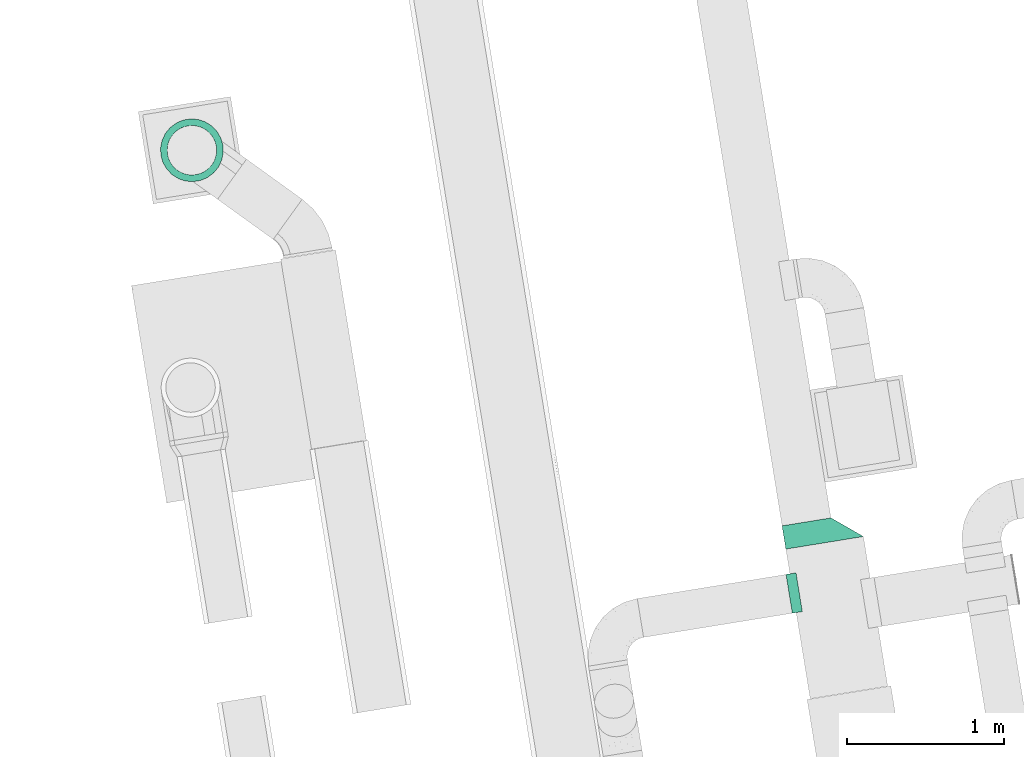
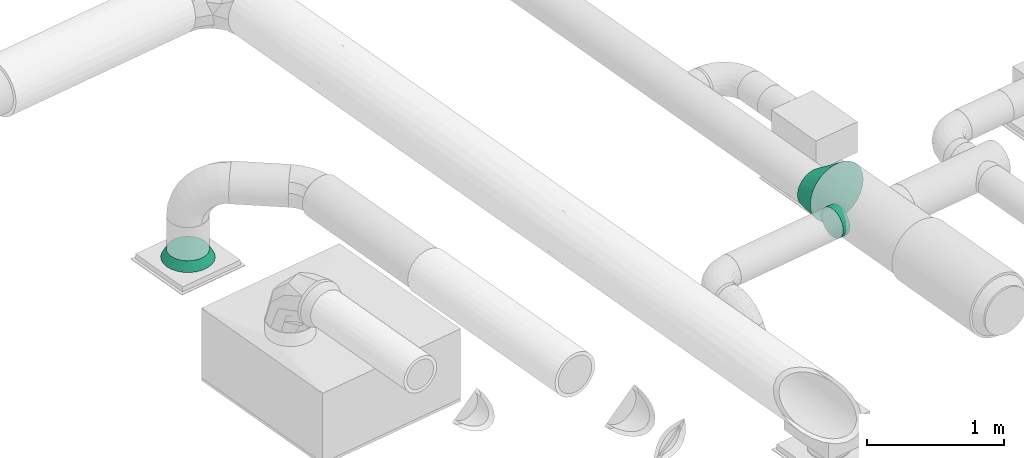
# One storey, part 36 of 39: 3 flow fittings.
"""IFC2X3 building model written with IfcOpenShell, lengths in millimetres."""

import ifcopenshell
import ifcopenshell.guid

model = None  # the IFC model being written
_history = None  # IfcOwnerHistory: only IFC2X3 demands one
_inside = {}  # id of a spatial element -> (the spatial element, [elements in it])
_under = {}  # id of a project, library or spatial element -> (it, [spatial elements below it])
_declared = {}  # id of a project -> (the project, [libraries it declares])
_typed = {}  # id of a type object -> (the type object, [elements of that type])
_made_of = {}  # id of a material, layer set ... -> (it, [elements and type objects made of it])


def new_model(schema):
    """Start an empty IFC model of exactly this schema.

    Asked for "IFC4X3", IfcOpenShell would pick the latest addendum, in which some entities
    have other attributes; the version numbers below select the first issue.
    IFC2X3 requires an IfcOwnerHistory on every rooted entity: one is made here for all.
    """
    global model, _history
    if schema == "IFC4X3":
        model = ifcopenshell.file(schema_version=(4, 3, 0, 0))
    else:
        model = ifcopenshell.file(schema=schema)
    _inside.clear()
    _under.clear()
    _declared.clear()
    _typed.clear()
    _made_of.clear()
    _history = None
    if model.schema == "IFC2X3":
        org = make("IfcOrganization", Name="unknown")
        user = make(
            "IfcPersonAndOrganization",
            ThePerson=make("IfcPerson", FamilyName="unknown"),
            TheOrganization=org,
        )
        app = make(
            "IfcApplication",
            ApplicationDeveloper=org,
            Version="unknown",
            ApplicationFullName="unknown",
            ApplicationIdentifier="unknown",
        )
        _history = make(
            "IfcOwnerHistory",
            OwningUser=user,
            OwningApplication=app,
            ChangeAction="ADDED",
            CreationDate=0,
        )
    return model


def make(cls, **values):
    """One entity of the class cls with the attributes given. An attribute that is None is left unset."""
    return model.create_entity(
        cls, **{name: value for name, value in values.items() if value is not None}
    )


def entity(cls, *values):
    """Any entity or typed value of the class cls, its attributes in the order of the schema. None: left unset."""
    e = model.create_entity(cls)
    for i, value in enumerate(values):
        if value is not None:
            e[i] = value
    return e


def rooted(cls, **values):
    """An entity with a GlobalId (a new one), such as an element, a storey or a relation."""
    return make(cls, GlobalId=ifcopenshell.guid.new(), OwnerHistory=_history, **values)


def si_unit(unit_type, name, prefix=None):
    """IfcSIUnit, for example si_unit("LENGTHUNIT", "METRE", prefix="MILLI")."""
    return make("IfcSIUnit", UnitType=unit_type, Prefix=prefix, Name=name)


def converted_unit(unit_type, name, factor, base, dimensions=None, offset=None):
    """IfcConversionBasedUnit, such as the inch: factor (a typed value) times the base unit."""
    return make(
        "IfcConversionBasedUnit"
        if offset is None
        else "IfcConversionBasedUnitWithOffset",
        ConversionOffset=offset,
        Dimensions=None
        if dimensions is None
        else entity("IfcDimensionalExponents", *dimensions),
        UnitType=unit_type,
        Name=name,
        ConversionFactor=make(
            "IfcMeasureWithUnit", ValueComponent=factor, UnitComponent=base
        ),
    )


def derived_unit(unit_type, elements):
    """IfcDerivedUnit: a product of units, each with its exponent."""
    return make(
        "IfcDerivedUnit",
        Elements=[
            make("IfcDerivedUnitElement", Unit=unit, Exponent=power)
            for unit, power in elements
        ],
        UnitType=unit_type,
    )


def assignment(units):
    """IfcUnitAssignment: the units of a project."""
    return None if units is None else make("IfcUnitAssignment", Units=units)


def point(xyz):
    """IfcCartesianPoint."""
    return None if xyz is None else make("IfcCartesianPoint", Coordinates=xyz)


def direction(xyz):
    """IfcDirection."""
    return None if xyz is None else make("IfcDirection", DirectionRatios=xyz)


def frame(location, z_axis=None, x_axis=None):
    """IfcAxis2Placement3D, a coordinate frame: its origin and axes. An axis left out is left unset."""
    return make(
        "IfcAxis2Placement3D",
        Location=point(location),
        Axis=direction(z_axis),
        RefDirection=direction(x_axis),
    )


def origin():
    """The frame at (0, 0, 0) with its axes left unset."""
    return frame((0.0, 0.0, 0.0))


def origin_with_axes():
    """The frame at (0, 0, 0) with the z axis (0, 0, 1) and the x axis (1, 0, 0) written out."""
    return frame((0.0, 0.0, 0.0), z_axis=(0.0, 0.0, 1.0), x_axis=(1.0, 0.0, 0.0))


def place(relative_to, where):
    """IfcLocalPlacement: puts the frame where relative to a parent placement (None: the world)."""
    return make(
        "IfcLocalPlacement", PlacementRelTo=relative_to, RelativePlacement=where
    )


def context(
    kind, dimensions, precision=None, world=None, true_north=None, identifier=None
):
    """IfcGeometricRepresentationContext, for example the 3D "Model" context."""
    return make(
        "IfcGeometricRepresentationContext",
        ContextIdentifier=identifier,
        ContextType=kind,
        CoordinateSpaceDimension=dimensions,
        Precision=precision,
        WorldCoordinateSystem=world,
        TrueNorth=true_north,
    )


def subcontext(parent, identifier, kind, view, scale=None):
    """IfcGeometricRepresentationSubContext, for example "Body" below "Model"."""
    return make(
        "IfcGeometricRepresentationSubContext",
        ContextIdentifier=identifier,
        ContextType=kind,
        ParentContext=parent,
        TargetScale=scale,
        TargetView=view,
    )


def project(units=None, contexts=None):
    """IfcProject with its units and contexts."""
    return rooted(
        "IfcProject",
        Name="project",
        RepresentationContexts=contexts,
        UnitsInContext=assignment(units),
    )


def spatial(cls, under=None, at=None, **own):
    """A site, building, storey or space (cls), placed at a placement, below another one or the project."""
    s = rooted(cls, ObjectPlacement=at, **own)
    if under is not None:
        _under.setdefault(under.id(), (under, []))[1].append(s)
    return s


def faces_of(points, faces, orient=None, outer=None):
    """IfcFace entities. A face is a list of loops; a loop is a list of indices into points, from 0.

    orient and outer hold one flag for each loop. By default every Orientation is true, the
    first loop of a face is its IfcFaceOuterBound and the others are IfcFaceBound.
    """
    made = []
    for i, loops in enumerate(faces):
        bounds = []
        for j, loop in enumerate(loops):
            is_outer = j == 0 if outer is None else outer[i][j]
            bounds.append(
                make(
                    "IfcFaceOuterBound" if is_outer else "IfcFaceBound",
                    Bound=make("IfcPolyLoop", Polygon=[points[k] for k in loop]),
                    Orientation=True if orient is None else orient[i][j],
                )
            )
        made.append(make("IfcFace", Bounds=bounds))
    return made


def faceted_brep(points, faces, orient=None, outer=None, voids=None):
    """IfcFacetedBrep: a solid bounded by flat faces; with voids (closed shells), ...WithVoids."""
    shared = [point(p) for p in points]
    hull = make("IfcClosedShell", CfsFaces=faces_of(shared, faces, orient, outer))
    if voids is None:
        return make("IfcFacetedBrep", Outer=hull)
    return make(
        "IfcFacetedBrepWithVoids",
        Outer=hull,
        Voids=[
            make(cls, CfsFaces=faces_of(shared, fs, o, b)) for cls, fs, o, b in voids
        ],
    )


def shape(context_of_items, identifier, shape_type, items):
    """IfcShapeRepresentation: the items that make up one representation, for example the "Body"."""
    return make(
        "IfcShapeRepresentation",
        ContextOfItems=context_of_items,
        RepresentationIdentifier=identifier,
        RepresentationType=shape_type,
        Items=items,
    )


def source(mapping_origin, context_of_items, identifier, shape_type, items):
    """IfcRepresentationMap: a shape defined once, which mapped items show again and again."""
    return make(
        "IfcRepresentationMap",
        MappingOrigin=mapping_origin,
        MappedRepresentation=shape(context_of_items, identifier, shape_type, items),
    )


def transform(
    local_origin,
    x_axis=None,
    y_axis=None,
    z_axis=None,
    scale=None,
    scale2=None,
    scale3=None,
    uniform=True,
):
    """IfcCartesianTransformationOperator3D, or its non-uniform kind. x_axis, y_axis, z_axis: its Axis1, 2, 3."""
    if uniform:
        return make(
            "IfcCartesianTransformationOperator3D",
            Axis1=direction(x_axis),
            Axis2=direction(y_axis),
            LocalOrigin=point(local_origin),
            Scale=scale,
            Axis3=direction(z_axis),
        )
    return make(
        "IfcCartesianTransformationOperator3DnonUniform",
        Axis1=direction(x_axis),
        Axis2=direction(y_axis),
        LocalOrigin=point(local_origin),
        Scale=scale,
        Axis3=direction(z_axis),
        Scale2=scale2,
        Scale3=scale3,
    )


def mapped(mapping_source, mapping_target):
    """IfcMappedItem: shows the shape of a source again, moved by a transform."""
    return make(
        "IfcMappedItem", MappingSource=mapping_source, MappingTarget=mapping_target
    )


def material(Name=None, Category=None):
    """IfcMaterial."""
    return make("IfcMaterial", Name=Name, Category=Category)


def made_of(thing, what):
    """Note that an element or type object is made of a material, layer set ...; save() writes the relation."""
    if what is not None:
        _made_of.setdefault(what.id(), (what, []))[1].append(thing)
    return thing


def type_object(cls, material=None, **own):
    """A type object (cls), such as IfcWallType, which elements share."""
    return made_of(rooted(cls, **own), material)


def element(
    cls,
    number,
    at=None,
    inside=None,
    cuts=None,
    type_object=None,
    material=None,
    context=None,
    identifier="Body",
    shape_type=None,
    held_by="IfcProductDefinitionShape",
    body=None,
    shapes=None,
    **own,
):
    """One element of the class cls, such as IfcWall. Its Tag is "e" and its number.

    at: its placement. inside: the storey or other place that contains it. cuts: it is an
    opening in that element (IfcRelVoidsElement). A single representation is given by context,
    identifier, shape_type and body (its items); several are given by shapes. held_by: the class
    of the entity that holds the representations. save() writes the other relations.
    """
    e = rooted(cls, Tag="e%d" % number, ObjectPlacement=at, **own)
    if body is not None:
        shapes = [shape(context, identifier, shape_type, body)]
    if shapes is not None:
        e.Representation = make(held_by, Representations=shapes)
    if inside is not None:
        _inside.setdefault(inside.id(), (inside, []))[1].append(e)
    if cuts is not None:
        rooted(
            "IfcRelVoidsElement", RelatingBuildingElement=cuts, RelatedOpeningElement=e
        )
    if type_object is not None:
        _typed.setdefault(type_object.id(), (type_object, []))[1].append(e)
    return made_of(e, material)


def aggregate(whole, parts):
    """IfcRelAggregates: a whole, such as a stair, and the parts it consists of."""
    return rooted("IfcRelAggregates", RelatingObject=whole, RelatedObjects=parts)


def save(model, path):
    """Write the relations noted so far, then the file.

    IfcRelAggregates (storeys below a building ...), IfcRelContainedInSpatialStructure (elements
    in a storey), IfcRelDefinesByType, IfcRelAssociatesMaterial and IfcRelDeclares: one each for
    every whole, place, type object, material and project.
    """
    for whole, parts in _under.values():
        aggregate(whole, parts)
    for where, things in _inside.values():
        rooted(
            "IfcRelContainedInSpatialStructure",
            RelatedElements=things,
            RelatingStructure=where,
        )
    for kind, things in _typed.values():
        rooted("IfcRelDefinesByType", RelatedObjects=things, RelatingType=kind)
    for what, things in _made_of.values():
        rooted("IfcRelAssociatesMaterial", RelatedObjects=things, RelatingMaterial=what)
    for by, libraries in _declared.values():
        rooted("IfcRelDeclares", RelatingContext=by, RelatedDefinitions=libraries)
    model.write(path)


model = new_model("IFC2X3")

# Units and contexts
plan_context = context("Plan", 3, precision=1e-05, world=origin_with_axes())
model_context = context("Model", 3, precision=0.01, world=origin(), true_north=direction((6.12323399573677e-17, 1.0)))
body_context = subcontext(model_context, "Body", "Model", "MODEL_VIEW")
ifc_project = project(units=[converted_unit("PLANEANGLEUNIT", "DEGREE", entity("IfcPositiveLengthMeasure", 0.0174532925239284), si_unit("PLANEANGLEUNIT", "RADIAN"), dimensions=[0, 0, 0, 0, 0, 0, 0]), si_unit("AREAUNIT", "SQUARE_METRE"), si_unit("LENGTHUNIT", "METRE", prefix="MILLI"), si_unit("MASSUNIT", "GRAM", prefix="KILO"), si_unit("POWERUNIT", "WATT"), si_unit("PRESSUREUNIT", "PASCAL", prefix="KILO"), si_unit("FORCEUNIT", "NEWTON", prefix="KILO"), si_unit("ELECTRICVOLTAGEUNIT", "VOLT"), si_unit("ELECTRICCURRENTUNIT", "AMPERE"), si_unit("THERMODYNAMICTEMPERATUREUNIT", "DEGREE_CELSIUS"), si_unit("TIMEUNIT", "SECOND"), si_unit("VOLUMEUNIT", "CUBIC_METRE"), derived_unit("LINEARVELOCITYUNIT", [(si_unit("LENGTHUNIT", "METRE"), 1), (si_unit("TIMEUNIT", "SECOND"), -1)]), derived_unit("VOLUMETRICFLOWRATEUNIT", [(si_unit("VOLUMEUNIT", "CUBIC_METRE"), 1), (si_unit("TIMEUNIT", "SECOND"), -1)]), derived_unit("THERMALTRANSMITTANCEUNIT", [(si_unit("POWERUNIT", "WATT"), 1), (si_unit("THERMODYNAMICTEMPERATUREUNIT", "KELVIN"), -1), (si_unit("AREAUNIT", "SQUARE_METRE"), -1)]), derived_unit("SOUNDPRESSUREUNIT", [(si_unit("PRESSUREUNIT", "PASCAL"), 1)])], contexts=[model_context, plan_context])

# Site, building, storey
site_placement = place(None, frame((-0.00071070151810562, 0.00438415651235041, 0.0), z_axis=(0.0, 0.0, 1.0), x_axis=(-0.160236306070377, 0.987078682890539, 0.0)))
site = spatial("IfcSite", under=ifc_project, at=site_placement, Name="Default", CompositionType="ELEMENT")
building_placement = place(site_placement, origin_with_axes())
building = spatial("IfcBuilding", under=site, at=building_placement, CompositionType="ELEMENT")
storey_placement = place(building_placement, frame((0.0, 0.0, 58999.9999999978), z_axis=(0.0, 0.0, 1.0), x_axis=(1.0, 0.0, 0.0)))
storey = spatial("IfcBuildingStorey", under=building, at=storey_placement, Name="Nivå F", CompositionType="ELEMENT", Elevation=58999.9999999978)

# Flow fittings
ifc_material_1 = material(Name="Material_Duct")
duct_fitting_type_1 = type_object("IfcDuctFittingType", Name="magicirc_reduction_001:magicirc_reduction_001", PredefinedType="NOTDEFINED", material=ifc_material_1)
shared_shape_1 = source(origin(), body_context, "Body", "Brep", [
    faceted_brep([(75.0, -157.499999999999, 0.0), (75.0, -152.133317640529, -40.7639996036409), (75.0, -136.399001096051, -78.7499999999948), (75.0, -111.369318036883, -111.369318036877), (75.0, -78.7500000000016, -136.399001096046), (75.0, -40.7639996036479, -152.133317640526), (75.0, 0.0, -157.499999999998), (75.0, 40.7639996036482, -152.133317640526), (75.0, 78.7500000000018, -136.399001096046), (75.0, 111.369318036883, -111.369318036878), (75.0, 136.39900109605, -78.7499999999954), (75.0, 152.133317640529, -40.763999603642), (75.0, 157.500000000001, 0.0), (75.0, 152.133317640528, 40.7639996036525), (75.0, 136.399001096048, 78.7500000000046), (75.0, 111.36931803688, 111.369318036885), (75.0, 78.749999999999, 136.399001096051), (75.0, 40.763999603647, 152.13331764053), (75.0, 0.0, 157.500000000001), (75.0, -40.7639996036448, 152.13331764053), (75.0, -78.7499999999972, 136.399001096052), (75.0, -111.369318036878, 111.369318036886), (75.0, -136.399001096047, 78.7500000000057), (75.0, -152.133317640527, 40.7639996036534), (0.0, 200.0, 0.0), (0.0, 194.18836348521, -47.8631328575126), (0.0, 177.091205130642, -92.9446344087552), (0.0, 149.702149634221, -132.624531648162), (0.0, 113.612949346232, -164.596773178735), (0.0, 70.9209774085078, -187.003248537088), (0.0, 24.1073360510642, -198.541774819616), (0.0, -24.1073360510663, -198.541774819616), (0.0, -70.92097740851, -187.003248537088), (0.0, -113.612949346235, -164.596773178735), (0.0, -149.702149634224, -132.624531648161), (0.0, -177.091205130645, -92.9446344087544), (0.0, -194.188363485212, -47.8631328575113), (0.0, -200.0, 0.0), (0.0, -194.188363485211, 47.8631328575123), (0.0, -177.091205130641, 92.9446344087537), (0.0, -149.702149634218, 132.624531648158), (0.0, -113.612949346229, 164.596773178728), (0.0, -70.920977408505, 187.003248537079), (0.0, -24.1073360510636, 198.541774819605), (0.0, 24.1073360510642, 198.541774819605), (0.0, 70.9209774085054, 187.003248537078), (0.0, 113.612949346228, 164.596773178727), (0.0, 149.702149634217, 132.624531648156), (0.0, 177.091205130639, 92.9446344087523), (0.0, 194.188363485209, 47.8631328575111)], [[[0, 1, 2, 3, 4, 5, 6, 7, 8, 9, 10, 11, 12, 13, 14, 15, 16, 17, 18, 19, 20, 21, 22, 23]], [[24, 25, 26, 27, 28, 29, 30, 31, 32, 33, 34, 35, 36, 37, 38, 39, 40, 41, 42, 43, 44, 45, 46, 47, 48, 49]], [[11, 10, 26]], [[12, 11, 25]], [[8, 7, 29]], [[9, 8, 28]], [[10, 9, 27]], [[11, 26, 25]], [[25, 24, 12]], [[27, 26, 10]], [[27, 9, 28]], [[28, 8, 29]], [[30, 29, 7]], [[7, 6, 30]], [[31, 6, 5]], [[32, 5, 4]], [[3, 2, 34]], [[1, 0, 36]], [[2, 1, 35]], [[4, 3, 33]], [[31, 5, 32]], [[32, 4, 33]], [[33, 3, 34]], [[35, 34, 2]], [[36, 35, 1]], [[37, 36, 0]], [[6, 31, 30]], [[23, 22, 39]], [[0, 23, 38]], [[20, 19, 42]], [[21, 20, 41]], [[22, 21, 40]], [[23, 39, 38]], [[38, 37, 0]], [[40, 39, 22]], [[40, 21, 41]], [[41, 20, 42]], [[43, 42, 19]], [[19, 18, 43]], [[44, 18, 17]], [[45, 17, 16]], [[15, 14, 47]], [[13, 12, 49]], [[14, 13, 48]], [[16, 15, 46]], [[44, 17, 45]], [[45, 16, 46]], [[46, 15, 47]], [[48, 47, 14]], [[49, 48, 13]], [[24, 49, 12]], [[18, 44, 43]]]),
])
flow_fitting_1_placement = place(storey_placement, frame((781534.119644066, -501554.980498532, 2444.03048000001), z_axis=(1.0, 0.0, 0.0), x_axis=(0.0, 0.0, 1.0)))
element("IfcFlowFitting", 1, at=flow_fitting_1_placement, inside=storey, type_object=duct_fitting_type_1, material=ifc_material_1, Name="magicirc_reduction_001:magicirc_reduction_001", ObjectType="magicirc_reduction_001:magicirc_reduction_001", context=body_context, shape_type="MappedRepresentation", body=[
    mapped(shared_shape_1, transform((0.0, 0.0, 0.0), scale=1.0)),
])
ifc_material_2 = material(Name="<Unnamed>")
duct_fitting_type_2 = type_object("IfcDuctFittingType", Name="magicirc_tapoutlet_1:magicirc_tapoutlet_001", PredefinedType="NOTDEFINED", material=ifc_material_2)
shared_shape_2 = source(origin(), body_context, "Body", "Brep", [
    faceted_brep([(-39.5896490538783, 0.0, -125.0), (-39.5896490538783, -32.3523806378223, -120.740728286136), (-39.5896490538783, -62.500000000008, -108.253175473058), (-39.5896490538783, -88.3883476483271, -88.3883476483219), (-39.5896490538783, -108.253175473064, -62.5000000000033), (-39.5896490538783, -120.740728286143, -32.352380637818), (-39.5896490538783, -125.0, 0.0), (-39.5896490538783, -120.740728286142, 32.3523806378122), (-39.5896490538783, -108.253175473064, 62.4999999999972), (-39.5896490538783, -88.3883476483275, 88.3883476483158), (-39.5896490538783, -62.5000000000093, 108.253175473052), (-39.5896490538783, -32.3523806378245, 120.740728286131), (-39.5896490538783, 0.0, 125.0), (-39.5896490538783, 32.3523806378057, 120.740728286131), (-39.5896490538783, 62.4999999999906, 108.253175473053), (-39.5896490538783, 88.3883476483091, 88.3883476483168), (-39.5896490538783, 108.253175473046, 62.4999999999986), (-39.5896490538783, 120.740728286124, 32.3523806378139), (-39.5896490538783, 125.0, 0.0), (-39.5896490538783, 120.740728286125, -32.3523806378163), (-39.5896490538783, 108.253175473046, -62.5000000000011), (-39.5896490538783, 88.3883476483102, -88.3883476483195), (-39.5896490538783, 62.4999999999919, -108.253175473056), (-39.5896490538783, 32.3523806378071, -120.740728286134), (0.0, 0.0, 125.0), (25.0, 0.0, 125.0), (25.0, 32.3523806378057, 120.740728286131), (0.0, 32.3523806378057, 120.740728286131), (25.0, 62.4999999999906, 108.253175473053), (0.0, 62.4999999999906, 108.253175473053), (25.0, 88.3883476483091, 88.3883476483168), (0.0, 88.3883476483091, 88.3883476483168), (0.0, 108.253175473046, 62.4999999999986), (25.0, 108.253175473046, 62.4999999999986), (25.0, 120.740728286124, 32.3523806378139), (0.0, 120.740728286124, 32.3523806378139), (25.0, 125.0, 0.0), (0.0, 125.0, 0.0), (25.0, 120.740728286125, -32.3523806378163), (0.0, 120.740728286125, -32.3523806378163), (25.0, 108.253175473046, -62.5000000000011), (0.0, 108.253175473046, -62.5000000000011), (25.0, 88.3883476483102, -88.3883476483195), (0.0, 88.3883476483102, -88.3883476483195), (0.0, 32.3523806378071, -120.740728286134), (25.0, 32.3523806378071, -120.740728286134), (25.0, 0.0, -125.0), (0.0, 0.0, -125.0), (0.0, 62.4999999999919, -108.253175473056), (25.0, 62.4999999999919, -108.253175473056), (25.0, -32.3523806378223, -120.740728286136), (0.0, -32.3523806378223, -120.740728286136), (25.0, -62.500000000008, -108.253175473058), (0.0, -62.500000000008, -108.253175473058), (25.0, -88.3883476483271, -88.3883476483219), (0.0, -88.3883476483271, -88.3883476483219), (0.0, -108.253175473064, -62.5000000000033), (25.0, -108.253175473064, -62.5000000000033), (25.0, -120.740728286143, -32.352380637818), (0.0, -120.740728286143, -32.352380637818), (25.0, -125.0, 0.0), (0.0, -125.0, 0.0), (25.0, -120.740728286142, 32.3523806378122), (0.0, -120.740728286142, 32.3523806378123), (25.0, -108.253175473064, 62.4999999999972), (0.0, -108.253175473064, 62.4999999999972), (25.0, -88.3883476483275, 88.3883476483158), (0.0, -88.3883476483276, 88.3883476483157), (0.0, -62.5000000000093, 108.253175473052), (25.0, -62.5000000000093, 108.253175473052), (25.0, -32.3523806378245, 120.740728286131), (0.0, -32.3523806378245, 120.740728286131)], [[[0, 1, 2, 3, 4, 5, 6, 7, 8, 9, 10, 11, 12, 13, 14, 15, 16, 17, 18, 19, 20, 21, 22, 23]], [[12, 24, 25, 26, 27, 13]], [[13, 27, 26, 28, 29, 14]], [[14, 29, 28, 30, 31, 15]], [[16, 32, 33, 34, 35, 17]], [[17, 35, 34, 36, 37, 18]], [[15, 31, 30, 33, 32, 16]], [[18, 37, 36, 38, 39, 19]], [[19, 39, 38, 40, 41, 20]], [[20, 41, 40, 42, 43, 21]], [[44, 45, 46, 47, 0, 23]], [[48, 49, 45, 44, 23, 22]], [[21, 43, 42, 49, 48, 22]], [[0, 47, 46, 50, 51, 1]], [[1, 51, 50, 52, 53, 2]], [[2, 53, 52, 54, 55, 3]], [[4, 56, 57, 58, 59, 5]], [[5, 59, 58, 60, 61, 6]], [[3, 55, 54, 57, 56, 4]], [[6, 61, 60, 62, 63, 7]], [[7, 63, 62, 64, 65, 8]], [[8, 65, 64, 66, 67, 9]], [[10, 68, 69, 70, 71, 11]], [[11, 71, 70, 25, 24, 12]], [[9, 67, 66, 69, 68, 10]], [[45, 49, 42, 40, 38, 36, 34, 33, 30, 28, 26, 25, 70, 69, 66, 64, 62, 60, 58, 57, 54, 52, 50, 46]]]),
    faceted_brep([(25.0, 32.352380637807, -120.740728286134), (25.0, 62.4999999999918, -108.253175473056), (25.0, 88.3883476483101, -88.3883476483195), (25.0, 108.253175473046, -62.5000000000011), (25.0, 120.740728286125, -32.3523806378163), (25.0, 125.0, 0.0), (25.0, 120.740728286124, 32.3523806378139), (25.0, 108.253175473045, 62.4999999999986), (25.0, 88.388347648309, 88.3883476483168), (25.0, 62.4999999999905, 108.253175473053), (25.0, 32.3523806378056, 120.740728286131), (25.0, 0.0, 125.0), (25.0, -32.3523806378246, 120.740728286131), (25.0, -62.5000000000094, 108.253175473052), (25.0, -88.3883476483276, 88.3883476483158), (25.0, -108.253175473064, 62.4999999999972), (25.0, -120.740728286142, 32.3523806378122), (25.0, -125.0, 0.0), (25.0, -120.740728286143, -32.352380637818), (25.0, -108.253175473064, -62.5000000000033), (25.0, -88.3883476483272, -88.3883476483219), (25.0, -62.500000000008, -108.253175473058), (25.0, -32.3523806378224, -120.740728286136), (25.0, 0.0, -125.0), (0.0, 0.0, 125.0), (0.0, 32.3523806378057, 120.740728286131), (-39.5896490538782, 32.3523806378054, 120.740728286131), (-39.5896490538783, 0.0, 125.0), (0.0, 62.4999999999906, 108.253175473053), (-39.5896490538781, 62.4999999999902, 108.253175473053), (0.0, 88.3883476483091, 88.3883476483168), (-39.589649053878, 88.3883476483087, 88.3883476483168), (0.0, 108.253175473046, 62.4999999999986), (0.0, 120.740728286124, 32.3523806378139), (-39.5896490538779, 120.740728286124, 32.3523806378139), (-39.5896490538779, 108.253175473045, 62.4999999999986), (0.0, 125.0, 0.0), (-39.5896490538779, 125.0, 0.0), (0.0, 120.740728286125, -32.3523806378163), (-39.5896490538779, 120.740728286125, -32.3523806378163), (0.0, 108.253175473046, -62.5000000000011), (-39.5896490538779, 108.253175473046, -62.5000000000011), (0.0, 88.3883476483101, -88.3883476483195), (-39.589649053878, 88.3883476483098, -88.3883476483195), (0.0, 0.0, -125.0), (-39.5896490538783, 0.0, -125.0), (-39.5896490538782, 32.3523806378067, -120.740728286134), (0.0, 32.3523806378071, -120.740728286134), (-39.5896490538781, 62.4999999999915, -108.253175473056), (0.0, 62.4999999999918, -108.253175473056), (0.0, -32.3523806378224, -120.740728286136), (-39.5896490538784, -32.3523806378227, -120.740728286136), (0.0, -62.500000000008, -108.253175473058), (-39.5896490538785, -62.5000000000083, -108.253175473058), (0.0, -88.3883476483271, -88.3883476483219), (-39.5896490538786, -88.3883476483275, -88.3883476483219), (0.0, -108.253175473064, -62.5000000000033), (0.0, -120.740728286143, -32.352380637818), (-39.5896490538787, -120.740728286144, -32.352380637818), (-39.5896490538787, -108.253175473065, -62.5000000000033), (0.0, -125.0, 0.0), (-39.5896490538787, -125.0, 0.0), (0.0, -120.740728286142, 32.3523806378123), (-39.5896490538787, -120.740728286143, 32.3523806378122), (0.0, -108.253175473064, 62.4999999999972), (-39.5896490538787, -108.253175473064, 62.4999999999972), (0.0, -88.3883476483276, 88.3883476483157), (-39.5896490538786, -88.3883476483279, 88.3883476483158), (0.0, -62.5000000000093, 108.253175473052), (0.0, -32.3523806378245, 120.740728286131), (-39.5896490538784, -32.3523806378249, 120.740728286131), (-39.5896490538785, -62.5000000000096, 108.253175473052)], [[[0, 1, 2, 3, 4, 5, 6, 7, 8, 9, 10, 11, 12, 13, 14, 15, 16, 17, 18, 19, 20, 21, 22, 23]], [[24, 11, 10, 25, 26, 27]], [[25, 10, 9, 28, 29, 26]], [[28, 9, 8, 30, 31, 29]], [[32, 7, 6, 33, 34, 35]], [[33, 6, 5, 36, 37, 34]], [[30, 8, 7, 32, 35, 31]], [[36, 5, 4, 38, 39, 37]], [[38, 4, 3, 40, 41, 39]], [[40, 3, 2, 42, 43, 41]], [[0, 23, 44, 45, 46, 47]], [[1, 0, 47, 46, 48, 49]], [[42, 2, 1, 49, 48, 43]], [[44, 23, 22, 50, 51, 45]], [[50, 22, 21, 52, 53, 51]], [[52, 21, 20, 54, 55, 53]], [[56, 19, 18, 57, 58, 59]], [[57, 18, 17, 60, 61, 58]], [[54, 20, 19, 56, 59, 55]], [[60, 17, 16, 62, 63, 61]], [[62, 16, 15, 64, 65, 63]], [[64, 15, 14, 66, 67, 65]], [[68, 13, 12, 69, 70, 71]], [[69, 12, 11, 24, 27, 70]], [[66, 14, 13, 68, 71, 67]], [[45, 51, 53, 55, 59, 58, 61, 63, 65, 67, 71, 70, 27, 26, 29, 31, 35, 34, 37, 39, 41, 43, 48, 46]]]),
    faceted_brep([(-39.5896490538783, 0.0, -125.0), (-39.5896490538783, -32.3523806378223, -120.740728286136), (-39.5896490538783, -62.500000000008, -108.253175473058), (-39.5896490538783, -88.3883476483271, -88.3883476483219), (-39.5896490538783, -108.253175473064, -62.5000000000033), (-39.5896490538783, -120.740728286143, -32.352380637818), (-39.5896490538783, -125.0, 0.0), (-39.5896490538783, -120.740728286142, 32.3523806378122), (-39.5896490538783, -108.253175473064, 62.4999999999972), (-39.5896490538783, -88.3883476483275, 88.3883476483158), (-39.5896490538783, -62.5000000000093, 108.253175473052), (-39.5896490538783, -32.3523806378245, 120.740728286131), (-39.5896490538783, 0.0, 125.0), (-39.5896490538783, 32.3523806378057, 120.740728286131), (-39.5896490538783, 62.4999999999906, 108.253175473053), (-39.5896490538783, 88.3883476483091, 88.3883476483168), (-39.5896490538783, 108.253175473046, 62.4999999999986), (-39.5896490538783, 120.740728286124, 32.3523806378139), (-39.5896490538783, 125.0, 0.0), (-39.5896490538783, 120.740728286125, -32.3523806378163), (-39.5896490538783, 108.253175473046, -62.5000000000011), (-39.5896490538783, 88.3883476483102, -88.3883476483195), (-39.5896490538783, 62.4999999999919, -108.253175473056), (-39.5896490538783, 32.3523806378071, -120.740728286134), (0.0, 0.0, 125.0), (25.0, 0.0, 125.0), (25.0, 32.3523806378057, 120.740728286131), (0.0, 32.3523806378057, 120.740728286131), (25.0, 62.4999999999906, 108.253175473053), (0.0, 62.4999999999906, 108.253175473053), (25.0, 88.3883476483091, 88.3883476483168), (0.0, 88.3883476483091, 88.3883476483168), (0.0, 108.253175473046, 62.4999999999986), (25.0, 108.253175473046, 62.4999999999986), (25.0, 120.740728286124, 32.3523806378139), (0.0, 120.740728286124, 32.3523806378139), (25.0, 125.0, 0.0), (0.0, 125.0, 0.0), (25.0, 120.740728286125, -32.3523806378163), (0.0, 120.740728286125, -32.3523806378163), (25.0, 108.253175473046, -62.5000000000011), (0.0, 108.253175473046, -62.5000000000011), (25.0, 88.3883476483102, -88.3883476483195), (0.0, 88.3883476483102, -88.3883476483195), (0.0, 32.3523806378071, -120.740728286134), (25.0, 32.3523806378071, -120.740728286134), (25.0, 0.0, -125.0), (0.0, 0.0, -125.0), (0.0, 62.4999999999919, -108.253175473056), (25.0, 62.4999999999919, -108.253175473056), (25.0, -32.3523806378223, -120.740728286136), (0.0, -32.3523806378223, -120.740728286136), (25.0, -62.500000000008, -108.253175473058), (0.0, -62.500000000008, -108.253175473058), (25.0, -88.3883476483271, -88.3883476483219), (0.0, -88.3883476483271, -88.3883476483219), (0.0, -108.253175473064, -62.5000000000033), (25.0, -108.253175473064, -62.5000000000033), (25.0, -120.740728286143, -32.352380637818), (0.0, -120.740728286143, -32.352380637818), (25.0, -125.0, 0.0), (0.0, -125.0, 0.0), (25.0, -120.740728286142, 32.3523806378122), (0.0, -120.740728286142, 32.3523806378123), (25.0, -108.253175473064, 62.4999999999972), (0.0, -108.253175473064, 62.4999999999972), (25.0, -88.3883476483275, 88.3883476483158), (0.0, -88.3883476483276, 88.3883476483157), (0.0, -62.5000000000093, 108.253175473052), (25.0, -62.5000000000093, 108.253175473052), (25.0, -32.3523806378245, 120.740728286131), (0.0, -32.3523806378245, 120.740728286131)], [[[0, 1, 2, 3, 4, 5, 6, 7, 8, 9, 10, 11, 12, 13, 14, 15, 16, 17, 18, 19, 20, 21, 22, 23]], [[12, 24, 25, 26, 27, 13]], [[13, 27, 26, 28, 29, 14]], [[14, 29, 28, 30, 31, 15]], [[16, 32, 33, 34, 35, 17]], [[17, 35, 34, 36, 37, 18]], [[15, 31, 30, 33, 32, 16]], [[18, 37, 36, 38, 39, 19]], [[19, 39, 38, 40, 41, 20]], [[20, 41, 40, 42, 43, 21]], [[44, 45, 46, 47, 0, 23]], [[48, 49, 45, 44, 23, 22]], [[21, 43, 42, 49, 48, 22]], [[0, 47, 46, 50, 51, 1]], [[1, 51, 50, 52, 53, 2]], [[2, 53, 52, 54, 55, 3]], [[4, 56, 57, 58, 59, 5]], [[5, 59, 58, 60, 61, 6]], [[3, 55, 54, 57, 56, 4]], [[6, 61, 60, 62, 63, 7]], [[7, 63, 62, 64, 65, 8]], [[8, 65, 64, 66, 67, 9]], [[10, 68, 69, 70, 71, 11]], [[11, 71, 70, 25, 24, 12]], [[9, 67, 66, 69, 68, 10]], [[45, 49, 42, 40, 38, 36, 34, 33, 30, 28, 26, 25, 70, 69, 66, 64, 62, 60, 58, 57, 54, 52, 50, 46]]]),
])
flow_fitting_2_placement = place(storey_placement, frame((778138.293172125, -504880.008615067, 3130.0), z_axis=(0.0, 0.0, 1.0), x_axis=(0.0, 1.0, 0.0)))
element("IfcFlowFitting", 2, at=flow_fitting_2_placement, inside=storey, type_object=duct_fitting_type_2, material=ifc_material_2, Name="magicirc_tapoutlet_1:magicirc_tapoutlet_001", ObjectType="magicirc_tapoutlet_1:magicirc_tapoutlet_001", context=body_context, shape_type="MappedRepresentation", body=[
    mapped(shared_shape_2, transform((0.0, 0.0, 0.0), scale=1.0)),
])
duct_fitting_type_3 = type_object("IfcDuctFittingType", Name="magicirc_reduction_001:magicirc_reduction_001", PredefinedType="NOTDEFINED", material=ifc_material_1)
shared_shape_3 = source(origin(), body_context, "Body", "Brep", [
    faceted_brep([(150.0, 36.8697665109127, 243.731978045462), (150.0, -15.9709347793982, 225.242216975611), (150.0, -63.3724504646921, 195.457870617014), (150.0, -102.957870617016, 155.87245046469), (150.0, -132.742216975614, 108.470934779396), (150.0, -151.231978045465, 55.6302334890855), (150.0, -157.500000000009, 0.0), (150.0, -151.231978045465, -55.6302334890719), (150.0, -132.742216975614, -108.470934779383), (150.0, -102.957870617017, -155.872450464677), (150.0, -63.3724504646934, -195.457870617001), (150.0, -15.9709347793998, -225.242216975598), (150.0, 36.869766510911, -243.73197804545), (150.0, 92.4999999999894, -250.0), (150.0, 148.130233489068, -243.73197804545), (150.0, 200.970934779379, -225.2422169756), (150.0, 248.372450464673, -195.457870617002), (150.0, 287.957870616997, -155.872450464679), (150.0, 317.742216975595, -108.470934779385), (150.0, 336.231978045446, -55.6302334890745), (150.0, 342.499999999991, 0.0), (150.0, 336.231978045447, 55.6302334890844), (150.0, 317.742216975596, 108.470934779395), (150.0, 287.957870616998, 155.872450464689), (150.0, 248.372450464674, 195.457870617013), (150.0, 200.970934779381, 225.242216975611), (150.0, 148.13023348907, 243.731978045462), (150.0, 92.4999999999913, 250.0), (0.0, 0.0, 157.5), (0.0, 40.7639996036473, 152.133317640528), (0.0, 78.7500000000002, 136.399001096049), (0.0, 111.369318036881, 111.369318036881), (0.0, 136.399001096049, 78.7499999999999), (0.0, 152.133317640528, 40.763999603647), (0.0, 157.5, 0.0), (0.0, 152.133317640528, -40.763999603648), (0.0, 136.399001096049, -78.7500000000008), (0.0, 111.369318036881, -111.369318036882), (0.0, 78.7499999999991, -136.39900109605), (0.0, 40.7639996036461, -152.133317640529), (0.0, 0.0, -157.5), (0.0, -40.7639996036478, -152.133317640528), (0.0, -78.7500000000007, -136.399001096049), (0.0, -111.369318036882, -111.369318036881), (0.0, -136.399001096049, -78.7499999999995), (0.0, -152.133317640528, -40.7639996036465), (0.0, -157.5, 0.0), (0.0, -152.133317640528, 40.7639996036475), (0.0, -136.399001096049, 78.7500000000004), (0.0, -111.369318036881, 111.369318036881), (0.0, -78.7499999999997, 136.399001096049), (0.0, -40.7639996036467, 152.133317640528), (78.4869026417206, -145.945563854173, -68.0045420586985), (82.749268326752, -157.500000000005, 0.0), (78.4869256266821, -19.6042775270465, -194.345833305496), (74.9999992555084, 23.4372375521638, -202.468862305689), (80.5790773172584, -125.742720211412, -110.231956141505), (79.165492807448, -99.7971763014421, -143.110899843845), (80.5790815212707, -60.5415230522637, -175.43315396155), (75.0000004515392, 69.0627622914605, -202.468863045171), (82.7492765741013, 259.557441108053, 0.0), (78.4869265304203, 116.404819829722, -194.345833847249), (78.4869261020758, 242.746104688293, -68.0045483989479), (80.5790818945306, 225.123588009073, -110.231956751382), (79.1654949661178, 191.929623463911, -148.615897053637), (80.5790821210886, 159.922390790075, -175.433154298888), (78.4869026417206, 242.746077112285, 68.0045420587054), (78.4869256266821, 116.404819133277, 194.345833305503), (74.9999992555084, 69.0627615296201, 202.468862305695), (80.5790773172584, 225.12358223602, 110.231956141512), (79.165492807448, 197.434617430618, 143.110899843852), (80.5790815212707, 159.92239026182, 175.433153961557), (75.0000004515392, 23.4372382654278, 202.468863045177), (78.4869265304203, -19.6042771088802, 194.345833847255), (78.4869261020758, -145.945562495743, 68.0045483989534), (80.5790818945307, -125.742720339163, 110.231956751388), (79.1654949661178, -94.2921796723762, 148.615897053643), (80.5790821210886, -60.5415228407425, 175.433154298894)], [[[0, 1, 2, 3, 4, 5, 6, 7, 8, 9, 10, 11, 12, 13, 14, 15, 16, 17, 18, 19, 20, 21, 22, 23, 24, 25, 26, 27]], [[28, 29, 30, 31, 32, 33, 34, 35, 36, 37, 38, 39, 40, 41, 42, 43, 44, 45, 46, 47, 48, 49, 50, 51]], [[52, 53, 45]], [[54, 55, 12]], [[44, 56, 52]], [[7, 52, 8]], [[57, 43, 58]], [[44, 52, 45]], [[43, 57, 56]], [[55, 59, 13]], [[8, 56, 9]], [[39, 59, 40]], [[42, 41, 54]], [[41, 40, 55]], [[46, 45, 53]], [[7, 6, 53]], [[34, 60, 35]], [[53, 52, 7]], [[57, 9, 56]], [[38, 61, 39]], [[58, 11, 10]], [[12, 11, 54]], [[59, 61, 14]], [[55, 13, 12]], [[55, 54, 41]], [[40, 59, 55]], [[54, 11, 58]], [[39, 61, 59]], [[62, 63, 36]], [[64, 63, 17]], [[61, 38, 65]], [[35, 62, 36]], [[61, 65, 15]], [[63, 64, 37]], [[63, 37, 36]], [[37, 64, 65]], [[37, 65, 38]], [[17, 16, 64]], [[60, 20, 19]], [[61, 15, 14]], [[65, 16, 15]], [[52, 56, 8]], [[60, 62, 35]], [[58, 43, 42]], [[64, 16, 65]], [[57, 58, 10]], [[63, 18, 17]], [[19, 18, 62]], [[10, 9, 57]], [[60, 19, 62]], [[43, 56, 44]], [[54, 58, 42]], [[59, 14, 13]], [[62, 18, 63]], [[66, 60, 33]], [[67, 68, 26]], [[32, 69, 66]], [[21, 66, 22]], [[70, 31, 71]], [[32, 66, 33]], [[31, 70, 69]], [[68, 72, 27]], [[22, 69, 23]], [[51, 72, 28]], [[30, 29, 67]], [[29, 28, 68]], [[34, 33, 60]], [[21, 20, 60]], [[46, 53, 47]], [[60, 66, 21]], [[70, 23, 69]], [[50, 73, 51]], [[71, 25, 24]], [[26, 25, 67]], [[72, 73, 0]], [[68, 27, 26]], [[68, 67, 29]], [[28, 72, 68]], [[67, 25, 71]], [[51, 73, 72]], [[74, 75, 48]], [[76, 75, 3]], [[73, 50, 77]], [[47, 74, 48]], [[73, 77, 1]], [[75, 76, 49]], [[75, 49, 48]], [[49, 76, 77]], [[49, 77, 50]], [[3, 2, 76]], [[53, 6, 5]], [[73, 1, 0]], [[77, 2, 1]], [[66, 69, 22]], [[53, 74, 47]], [[71, 31, 30]], [[76, 2, 77]], [[70, 71, 24]], [[75, 4, 3]], [[5, 4, 74]], [[24, 23, 70]], [[53, 5, 74]], [[31, 69, 32]], [[67, 71, 30]], [[72, 0, 27]], [[74, 4, 75]]]),
])
flow_fitting_3_placement = place(storey_placement, frame((778572.619644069, -505037.508615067, 3130.0), z_axis=(0.0, 0.0, 1.0), x_axis=(-1.0, 0.0, 0.0)))
element("IfcFlowFitting", 3, at=flow_fitting_3_placement, inside=storey, type_object=duct_fitting_type_3, material=ifc_material_1, Name="magicirc_reduction_001:magicirc_reduction_001", ObjectType="magicirc_reduction_001:magicirc_reduction_001", context=body_context, shape_type="MappedRepresentation", body=[
    mapped(shared_shape_3, transform((0.0, 0.0, 0.0), scale=1.0)),
])

save(model, "model.ifc")
